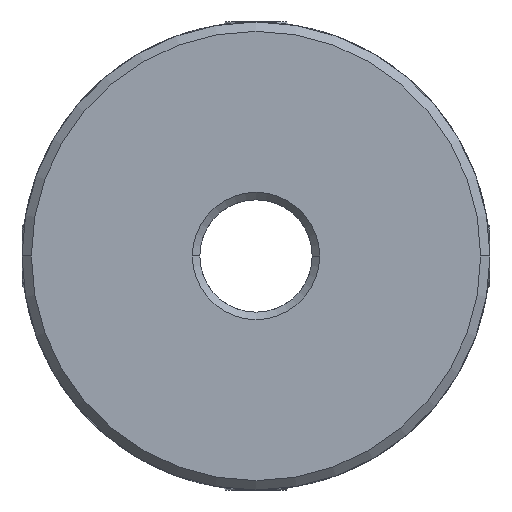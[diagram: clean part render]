
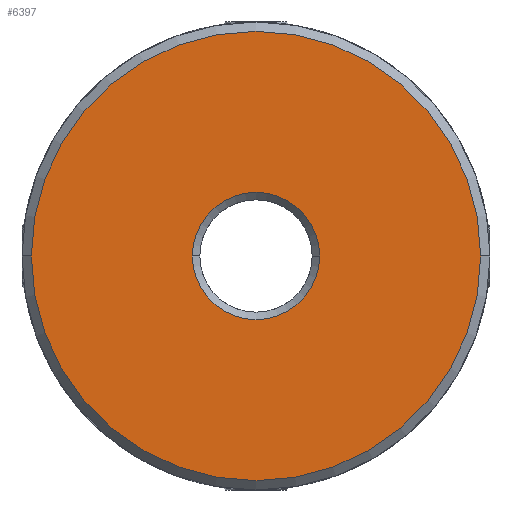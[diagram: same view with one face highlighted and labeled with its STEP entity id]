
A CAD part, front view. The second image highlights one B-rep face of the part: STEP entity #6397.
In plain terms, the highlighted planar face has unit normal (0, -1, 0).
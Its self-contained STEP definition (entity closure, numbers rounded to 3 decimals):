
#300 = AXIS2_PLACEMENT_3D ( 'NONE', #5620, #7059, #7091 ) ;
#524 = CARTESIAN_POINT ( 'NONE',  ( -3.4, -28., 0. ) ) ;
#757 = DIRECTION ( 'NONE',  ( 0., -1., 0. ) ) ;
#1326 = CARTESIAN_POINT ( 'NONE',  ( 12., -28., 0. ) ) ;
#1549 = CIRCLE ( 'NONE', #2479, 3.4 ) ;
#1825 = EDGE_CURVE ( 'NONE', #2962, #2974, #5598, .T. ) ;
#2267 = EDGE_CURVE ( 'NONE', #2974, #2962, #1549, .T. ) ;
#2479 = AXIS2_PLACEMENT_3D ( 'NONE', #6058, #5243, #4526 ) ;
#2934 = AXIS2_PLACEMENT_3D ( 'NONE', #8166, #5098, #6662 ) ;
#2962 = VERTEX_POINT ( 'NONE', #524 ) ;
#2974 = VERTEX_POINT ( 'NONE', #4496 ) ;
#3139 = EDGE_LOOP ( 'NONE', ( #8141, #5574 ) ) ;
#3559 = DIRECTION ( 'NONE',  ( -1., 0., 0. ) ) ;
#3705 = AXIS2_PLACEMENT_3D ( 'NONE', #6652, #9686, #3559 ) ;
#3710 = FACE_OUTER_BOUND ( 'NONE', #9325, .T. ) ;
#4496 = CARTESIAN_POINT ( 'NONE',  ( 3.4, -28., 0. ) ) ;
#4526 = DIRECTION ( 'NONE',  ( -1., 0., 0. ) ) ;
#5035 = PLANE ( 'NONE',  #2934 ) ;
#5098 = DIRECTION ( 'NONE',  ( 0., 1., 0. ) ) ;
#5228 = ORIENTED_EDGE ( 'NONE', *, *, #7815, .T. ) ;
#5243 = DIRECTION ( 'NONE',  ( 0., 1., 0. ) ) ;
#5574 = ORIENTED_EDGE ( 'NONE', *, *, #1825, .T. ) ;
#5598 = CIRCLE ( 'NONE', #300, 3.4 ) ;
#5620 = CARTESIAN_POINT ( 'NONE',  ( 0., -28., 0. ) ) ;
#6032 = CARTESIAN_POINT ( 'NONE',  ( 0., -28., 0. ) ) ;
#6058 = CARTESIAN_POINT ( 'NONE',  ( 0., -28., 0. ) ) ;
#6109 = DIRECTION ( 'NONE',  ( -1., 0., 0. ) ) ;
#6397 = ADVANCED_FACE ( 'NONE', ( #3710, #6969 ), #5035, .F. ) ;
#6652 = CARTESIAN_POINT ( 'NONE',  ( 0., -28., 0. ) ) ;
#6662 = DIRECTION ( 'NONE',  ( -1., 0., 0. ) ) ;
#6833 = AXIS2_PLACEMENT_3D ( 'NONE', #6032, #757, #6109 ) ;
#6969 = FACE_BOUND ( 'NONE', #3139, .T. ) ;
#7059 = DIRECTION ( 'NONE',  ( 0., 1., 0. ) ) ;
#7091 = DIRECTION ( 'NONE',  ( -1., 0., 0. ) ) ;
#7167 = VERTEX_POINT ( 'NONE', #7553 ) ;
#7553 = CARTESIAN_POINT ( 'NONE',  ( -12., -28., 0. ) ) ;
#7815 = EDGE_CURVE ( 'NONE', #7167, #9278, #9330, .T. ) ;
#8101 = ORIENTED_EDGE ( 'NONE', *, *, #9407, .T. ) ;
#8141 = ORIENTED_EDGE ( 'NONE', *, *, #2267, .T. ) ;
#8166 = CARTESIAN_POINT ( 'NONE',  ( -19.597, -28., -50. ) ) ;
#9278 = VERTEX_POINT ( 'NONE', #1326 ) ;
#9325 = EDGE_LOOP ( 'NONE', ( #5228, #8101 ) ) ;
#9330 = CIRCLE ( 'NONE', #3705, 12. ) ;
#9407 = EDGE_CURVE ( 'NONE', #9278, #7167, #9435, .T. ) ;
#9435 = CIRCLE ( 'NONE', #6833, 12. ) ;
#9686 = DIRECTION ( 'NONE',  ( 0., -1., 0. ) ) ;
